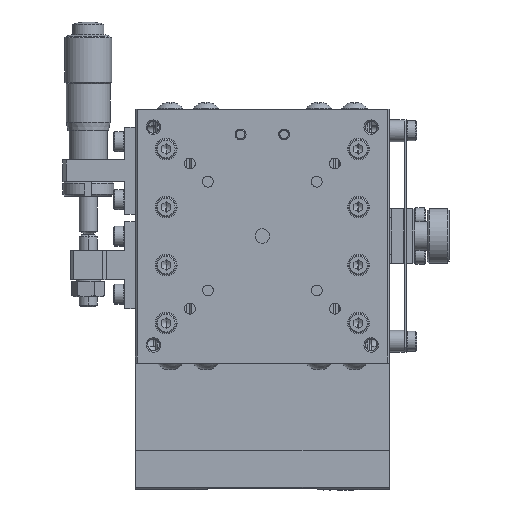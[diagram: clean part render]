
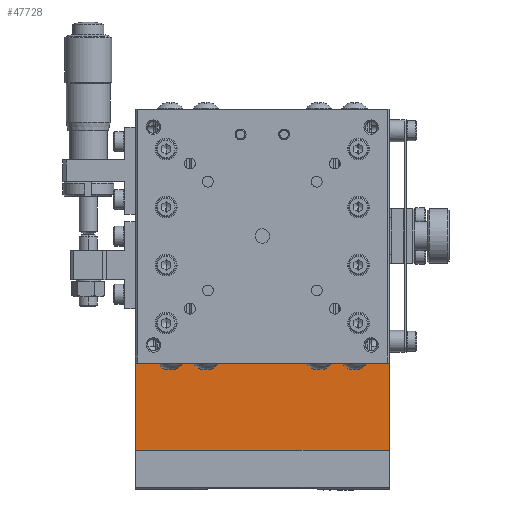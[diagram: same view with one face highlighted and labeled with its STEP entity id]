
A CAD part, front view. The second image highlights one B-rep face of the part: STEP entity #47728.
In plain terms, the highlighted planar face has unit normal (0, -1, 0) as drawn and (0, 0, 1) by its records, which use the part's own axes.
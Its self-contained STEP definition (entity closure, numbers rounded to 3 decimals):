
#1081 = CARTESIAN_POINT ( 'NONE',  ( -35., 59., 3. ) ) ;
#1082 = DIRECTION ( 'NONE',  ( 0., 1., 0. ) ) ;
#1083 = VECTOR ( 'NONE', #1082, 1000. ) ;
#1084 = CARTESIAN_POINT ( 'NONE',  ( -35., 35., 3. ) ) ;
#1085 = LINE ( 'NONE', #1084, #1083 ) ;
#1086 = CARTESIAN_POINT ( 'NONE',  ( -35., 35., 3. ) ) ;
#1335 = CARTESIAN_POINT ( 'NONE',  ( 35., 35., 3. ) ) ;
#1336 = DIRECTION ( 'NONE',  ( 0., 1., 0. ) ) ;
#1337 = VECTOR ( 'NONE', #1336, 1000. ) ;
#1338 = CARTESIAN_POINT ( 'NONE',  ( 35., 35., 3. ) ) ;
#1339 = LINE ( 'NONE', #1338, #1337 ) ;
#1340 = CARTESIAN_POINT ( 'NONE',  ( 35., 59., 3. ) ) ;
#2423 = DIRECTION ( 'NONE',  ( -1., 0., 0. ) ) ;
#2424 = VECTOR ( 'NONE', #2423, 1000. ) ;
#2425 = CARTESIAN_POINT ( 'NONE',  ( 35., 35., 3. ) ) ;
#2426 = LINE ( 'NONE', #2425, #2424 ) ;
#19944 = DIRECTION ( 'NONE',  ( -1., 0., 0. ) ) ;
#19945 = DIRECTION ( 'NONE',  ( 0., 0., 1. ) ) ;
#19946 = CARTESIAN_POINT ( 'NONE',  ( 35., 35., 3. ) ) ;
#19947 = AXIS2_PLACEMENT_3D ( 'NONE', #19946, #19945, #19944 ) ;
#19948 = PLANE ( 'NONE',  #19947 ) ;
#19949 = FACE_OUTER_BOUND ( 'NONE', #47729, .T. ) ;
#19962 = DIRECTION ( 'NONE',  ( -1., 0., 0. ) ) ;
#19963 = VECTOR ( 'NONE', #19962, 1000. ) ;
#19964 = CARTESIAN_POINT ( 'NONE',  ( 35., 59., 3. ) ) ;
#19965 = LINE ( 'NONE', #19964, #19963 ) ;
#36286 = VERTEX_POINT ( 'NONE', #1086 ) ;
#36289 = EDGE_CURVE ( 'NONE', #36286, #36290, #1085, .T. ) ;
#36290 = VERTEX_POINT ( 'NONE', #1081 ) ;
#36437 = VERTEX_POINT ( 'NONE', #1340 ) ;
#36441 = EDGE_CURVE ( 'NONE', #36442, #36437, #1339, .T. ) ;
#36442 = VERTEX_POINT ( 'NONE', #1335 ) ;
#37099 = EDGE_CURVE ( 'NONE', #36442, #36286, #2426, .T. ) ;
#47708 = ORIENTED_EDGE ( 'NONE', *, *, #36289, .F. ) ;
#47709 = ORIENTED_EDGE ( 'NONE', *, *, #37099, .F. ) ;
#47710 = ORIENTED_EDGE ( 'NONE', *, *, #36441, .T. ) ;
#47711 = ORIENTED_EDGE ( 'NONE', *, *, #47712, .T. ) ;
#47712 = EDGE_CURVE ( 'NONE', #36437, #36290, #19965, .T. ) ;
#47728 = ADVANCED_FACE ( 'NONE', ( #19949 ), #19948, .T. ) ;
#47729 = EDGE_LOOP ( 'NONE', ( #47708, #47709, #47710, #47711 ) ) ;
